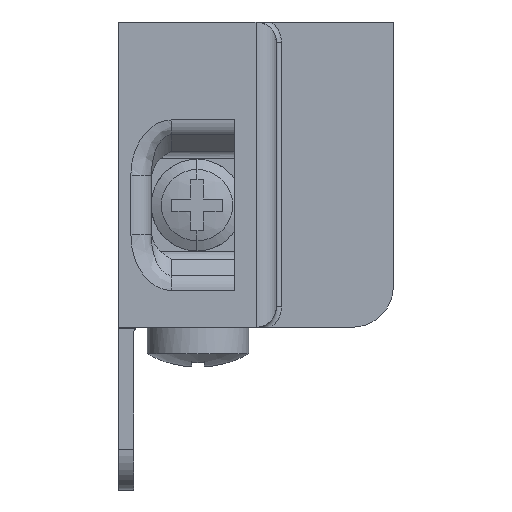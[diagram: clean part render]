
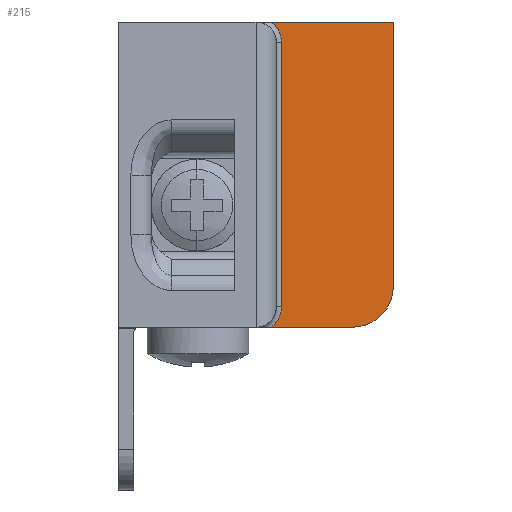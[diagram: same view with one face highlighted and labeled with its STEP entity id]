
A CAD part, front view. The second image highlights one B-rep face of the part: STEP entity #215.
In plain terms, the highlighted planar face has unit normal (0, -1, 0).
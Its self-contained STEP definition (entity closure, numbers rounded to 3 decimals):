
#115 = AXIS2_PLACEMENT_3D ( 'NONE', #2788, #2799, #2800 ) ;
#215 = ADVANCED_FACE ( 'NONE', ( #2796 ), #2797, .F. ) ;
#375 = VERTEX_POINT ( 'NONE', #2959 ) ;
#377 = VERTEX_POINT ( 'NONE', #2961 ) ;
#462 = VERTEX_POINT ( 'NONE', #3046 ) ;
#463 = VERTEX_POINT ( 'NONE', #3047 ) ;
#485 = VERTEX_POINT ( 'NONE', #3069 ) ;
#486 = VERTEX_POINT ( 'NONE', #3070 ) ;
#488 = VERTEX_POINT ( 'NONE', #3072 ) ;
#692 = EDGE_CURVE ( 'NONE', #375, #377, #3351, .T. ) ;
#876 = ORIENTED_EDGE ( 'NONE', *, *, #1093, .T. ) ;
#877 = ORIENTED_EDGE ( 'NONE', *, *, #1058, .T. ) ;
#878 = ORIENTED_EDGE ( 'NONE', *, *, #1094, .F. ) ;
#879 = ORIENTED_EDGE ( 'NONE', *, *, #1095, .F. ) ;
#880 = ORIENTED_EDGE ( 'NONE', *, *, #1096, .F. ) ;
#881 = ORIENTED_EDGE ( 'NONE', *, *, #692, .F. ) ;
#882 = ORIENTED_EDGE ( 'NONE', *, *, #1097, .F. ) ;
#928 = EDGE_LOOP ( 'NONE', ( #876, #877, #878, #879, #880, #881, #882 ) ) ;
#1058 = EDGE_CURVE ( 'NONE', #463, #462, #3992, .T. ) ;
#1093 = EDGE_CURVE ( 'NONE', #485, #463, #4096, .T. ) ;
#1094 = EDGE_CURVE ( 'NONE', #486, #462, #3625, .T. ) ;
#1095 = EDGE_CURVE ( 'NONE', #488, #486, #4101, .T. ) ;
#1096 = EDGE_CURVE ( 'NONE', #377, #488, #3628, .T. ) ;
#1097 = EDGE_CURVE ( 'NONE', #485, #375, #3629, .T. ) ;
#2788 = CARTESIAN_POINT ( 'NONE',  ( 27., 41.2, 39. ) ) ;
#2796 = FACE_OUTER_BOUND ( 'NONE', #928, .T. ) ;
#2797 = PLANE ( 'NONE',  #115 ) ;
#2799 = DIRECTION ( 'NONE',  ( 0., 1., 0. ) ) ;
#2800 = DIRECTION ( 'NONE',  ( 0., 0., 1. ) ) ;
#2959 = CARTESIAN_POINT ( 'NONE',  ( 23., 41.2, 9. ) ) ;
#2961 = CARTESIAN_POINT ( 'NONE',  ( 15., 41.2, 9. ) ) ;
#3046 = CARTESIAN_POINT ( 'NONE',  ( 15., 41.2, 39. ) ) ;
#3047 = CARTESIAN_POINT ( 'NONE',  ( 27., 41.2, 39. ) ) ;
#3069 = CARTESIAN_POINT ( 'NONE',  ( 27., 41.2, 13. ) ) ;
#3070 = CARTESIAN_POINT ( 'NONE',  ( 16., 41.2, 37. ) ) ;
#3072 = CARTESIAN_POINT ( 'NONE',  ( 16., 41.2, 11. ) ) ;
#3346 = CARTESIAN_POINT ( 'NONE',  ( 27., 41.2, 9. ) ) ;
#3351 = LINE ( 'NONE', #3346, #3454 ) ;
#3359 = DIRECTION ( 'NONE',  ( -1., 0., 0. ) ) ;
#3454 = VECTOR ( 'NONE', #3359, 1000. ) ;
#3578 = VECTOR ( 'NONE', #4000, 1000. ) ;
#3623 = VECTOR ( 'NONE', #4106, 1000. ) ;
#3625 = CIRCLE ( 'NONE', #3627, 2.5 ) ;
#3626 = VECTOR ( 'NONE', #4110, 1000. ) ;
#3627 = AXIS2_PLACEMENT_3D ( 'NONE', #4107, #4108, #4109 ) ;
#3628 = CIRCLE ( 'NONE', #3630, 2.5 ) ;
#3629 = CIRCLE ( 'NONE', #3632, 4. ) ;
#3630 = AXIS2_PLACEMENT_3D ( 'NONE', #4113, #4114, #4115 ) ;
#3632 = AXIS2_PLACEMENT_3D ( 'NONE', #4116, #4117, #4118 ) ;
#3992 = LINE ( 'NONE', #3998, #3578 ) ;
#3998 = CARTESIAN_POINT ( 'NONE',  ( 27., 41.2, 39. ) ) ;
#4000 = DIRECTION ( 'NONE',  ( -1., 0., 0. ) ) ;
#4096 = LINE ( 'NONE', #4097, #3623 ) ;
#4097 = CARTESIAN_POINT ( 'NONE',  ( 27., 41.2, 39. ) ) ;
#4101 = LINE ( 'NONE', #4102, #3626 ) ;
#4102 = CARTESIAN_POINT ( 'NONE',  ( 16., 41.2, 39. ) ) ;
#4106 = DIRECTION ( 'NONE',  ( 0., 0., 1. ) ) ;
#4107 = CARTESIAN_POINT ( 'NONE',  ( 13.5, 41.2, 37. ) ) ;
#4108 = DIRECTION ( 'NONE',  ( 0., -1., 0. ) ) ;
#4109 = DIRECTION ( 'NONE',  ( 0., 0., 1. ) ) ;
#4110 = DIRECTION ( 'NONE',  ( 0., 0., 1. ) ) ;
#4113 = CARTESIAN_POINT ( 'NONE',  ( 13.5, 41.2, 11. ) ) ;
#4114 = DIRECTION ( 'NONE',  ( 0., -1., 0. ) ) ;
#4115 = DIRECTION ( 'NONE',  ( 0., 0., 1. ) ) ;
#4116 = CARTESIAN_POINT ( 'NONE',  ( 23., 41.2, 13. ) ) ;
#4117 = DIRECTION ( 'NONE',  ( 0., 1., 0. ) ) ;
#4118 = DIRECTION ( 'NONE',  ( 0., 0., 1. ) ) ;
